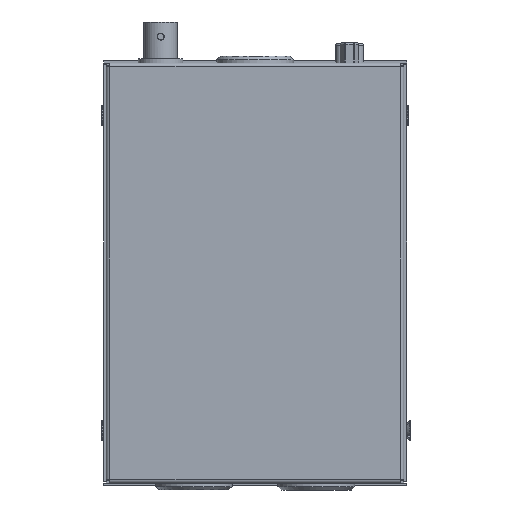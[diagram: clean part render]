
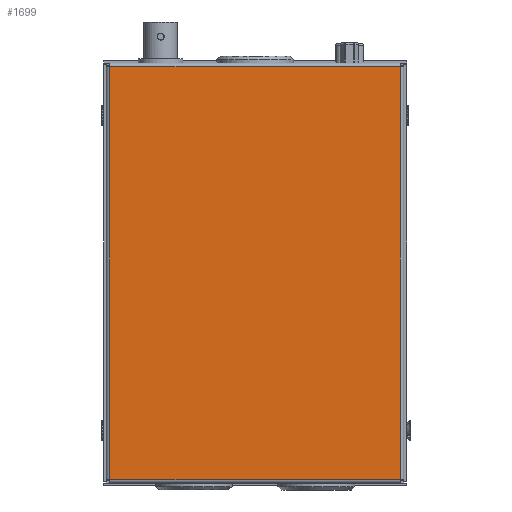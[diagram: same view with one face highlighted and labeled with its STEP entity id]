
A CAD part, front view. The second image highlights one B-rep face of the part: STEP entity #1699.
In plain terms, the highlighted planar face has unit normal (0, -1, 0).
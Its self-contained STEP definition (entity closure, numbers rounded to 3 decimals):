
#361 = ORIENTED_EDGE ( 'NONE', *, *, #8631, .T. ) ;
#406 = AXIS2_PLACEMENT_3D ( 'NONE', #4636, #11739, #11921 ) ;
#1647 = VERTEX_POINT ( 'NONE', #2062 ) ;
#1699 = ADVANCED_FACE ( 'NONE', ( #11750 ), #8337, .T. ) ;
#1756 = ORIENTED_EDGE ( 'NONE', *, *, #7661, .T. ) ;
#2062 = CARTESIAN_POINT ( 'NONE',  ( -41.5, -0.8, 59. ) ) ;
#2366 = CARTESIAN_POINT ( 'NONE',  ( -41.5, -0.8, 59.129 ) ) ;
#2763 = VERTEX_POINT ( 'NONE', #5513 ) ;
#2935 = LINE ( 'NONE', #11051, #10933 ) ;
#4336 = CARTESIAN_POINT ( 'NONE',  ( 41.5, -0.8, -59. ) ) ;
#4636 = CARTESIAN_POINT ( 'NONE',  ( 0., -0.8, 0. ) ) ;
#4801 = LINE ( 'NONE', #10789, #7215 ) ;
#5513 = CARTESIAN_POINT ( 'NONE',  ( 41.5, -0.8, 59. ) ) ;
#6168 = VERTEX_POINT ( 'NONE', #4336 ) ;
#6812 = EDGE_LOOP ( 'NONE', ( #361, #12059, #12105, #1756 ) ) ;
#6924 = CARTESIAN_POINT ( 'NONE',  ( 41.629, -0.8, 59. ) ) ;
#6984 = DIRECTION ( 'NONE',  ( 0., 0., 1. ) ) ;
#7215 = VECTOR ( 'NONE', #11781, 1000. ) ;
#7661 = EDGE_CURVE ( 'NONE', #1647, #9527, #10747, .T. ) ;
#8064 = VECTOR ( 'NONE', #8607, 1000. ) ;
#8337 = PLANE ( 'NONE',  #406 ) ;
#8543 = EDGE_CURVE ( 'NONE', #2763, #1647, #9593, .T. ) ;
#8607 = DIRECTION ( 'NONE',  ( 0., 0., -1. ) ) ;
#8631 = EDGE_CURVE ( 'NONE', #9527, #6168, #4801, .T. ) ;
#8993 = DIRECTION ( 'NONE',  ( -1., 0., 0. ) ) ;
#9440 = VECTOR ( 'NONE', #8993, 1000. ) ;
#9527 = VERTEX_POINT ( 'NONE', #11056 ) ;
#9593 = LINE ( 'NONE', #6924, #9440 ) ;
#10747 = LINE ( 'NONE', #2366, #8064 ) ;
#10789 = CARTESIAN_POINT ( 'NONE',  ( -41.629, -0.8, -59. ) ) ;
#10933 = VECTOR ( 'NONE', #6984, 1000. ) ;
#11051 = CARTESIAN_POINT ( 'NONE',  ( 41.5, -0.8, -59.129 ) ) ;
#11056 = CARTESIAN_POINT ( 'NONE',  ( -41.5, -0.8, -59. ) ) ;
#11739 = DIRECTION ( 'NONE',  ( 0., -1., 0. ) ) ;
#11750 = FACE_OUTER_BOUND ( 'NONE', #6812, .T. ) ;
#11781 = DIRECTION ( 'NONE',  ( 1., 0., 0. ) ) ;
#11803 = EDGE_CURVE ( 'NONE', #6168, #2763, #2935, .T. ) ;
#11921 = DIRECTION ( 'NONE',  ( 0., 0., -1. ) ) ;
#12059 = ORIENTED_EDGE ( 'NONE', *, *, #11803, .T. ) ;
#12105 = ORIENTED_EDGE ( 'NONE', *, *, #8543, .T. ) ;
